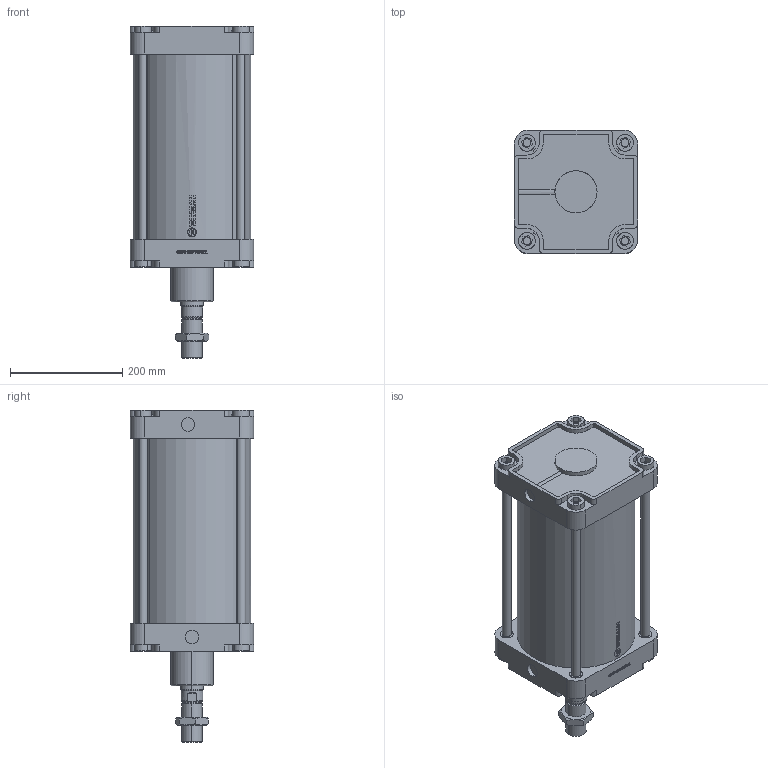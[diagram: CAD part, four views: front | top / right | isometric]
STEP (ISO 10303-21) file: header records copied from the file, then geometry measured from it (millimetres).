
FILE_DESCRIPTION (( 'STEP AP214' ), '1' );
FILE_NAME ('WQGB-200-0250 (3D).STEP', '2020-04-16T11:00:10', ( '' ), ( '' ), 'SwSTEP 2.0', 'SolidWorks 2016', '' );
FILE_SCHEMA (( 'AUTOMOTIVE_DESIGN' ));
Length unit declared in the file: millimetre
Products named in the file (4): Group2^WQGB-200-0250 (3D); Group3^WQGB-200-0250 (3D); Group1^WQGB-200-0250 (3D); WQGB-200-0250 (3D)
Assembly tree (3 placements, depth 2):
  WQGB-200-0250 (3D)
    Group1^WQGB-200-0250 (3D)
    Group2^WQGB-200-0250 (3D)
    Group3^WQGB-200-0250 (3D)
Bounding box: 220 x 220 x 592 mm (x, y, z)
Volume: 8730019.6 mm3; surface area: 1050061.4 mm2
Topology: 17 solids, 17 shells, 668 faces, 1674 edges, 1110 vertices
Faces by surface type: plane 357, cylinder 191, bspline 102, cone 18
Entity records: 27316 total; most frequent: CARTESIAN_POINT 10192, ORIENTED_EDGE 3348, DIRECTION 2948, EDGE_CURVE 1674, VERTEX_POINT 1110, AXIS2_PLACEMENT_3D 990, VECTOR 968, LINE 968
